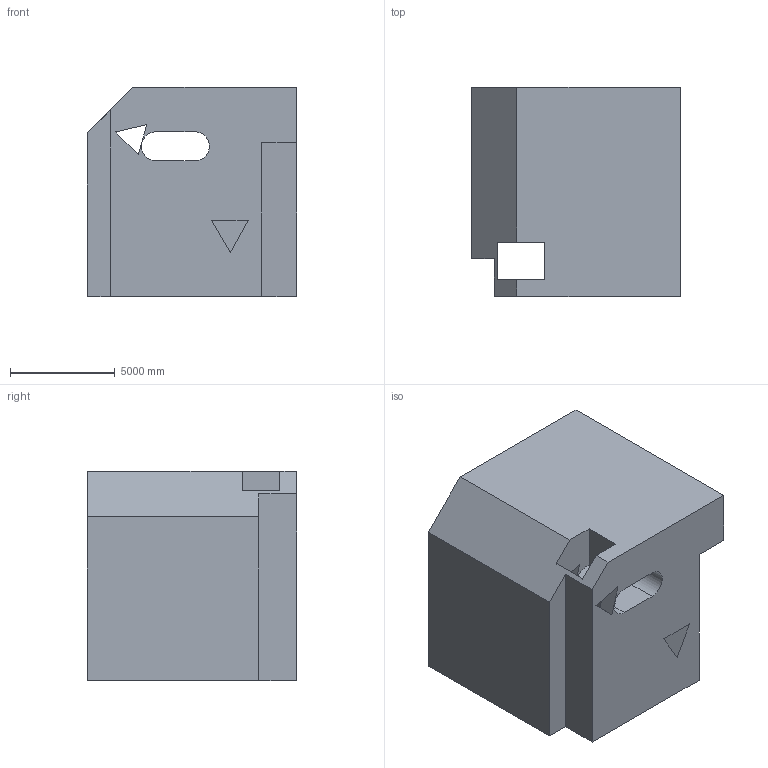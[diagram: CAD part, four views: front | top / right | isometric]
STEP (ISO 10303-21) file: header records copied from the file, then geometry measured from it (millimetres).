
FILE_DESCRIPTION (( 'STEP AP203' ), '1' );
FILE_NAME ('1756.STEP', '2022-08-19T12:38:13', ( 'user' ), ( '' ), 'SwSTEP 2.0', 'SolidWorks 2021', '' );
FILE_SCHEMA (( 'CONFIG_CONTROL_DESIGN' ));
Length unit declared in the file: centimetre
Products named in the file (1): 1756
Bounding box: 10000 x 10000 x 10000 mm (x, y, z)
Volume: 841672069433.7 mm3; surface area: 801048342.4 mm2
Topology: 1 solids, 1 shells, 36 faces, 105 edges, 70 vertices
Faces by surface type: plane 33, cylinder 3
Entity records: 1272 total; most frequent: CARTESIAN_POINT 212, ORIENTED_EDGE 210, DIRECTION 185, EDGE_CURVE 105, LINE 99, VECTOR 99, VERTEX_POINT 70, EDGE_LOOP 45
